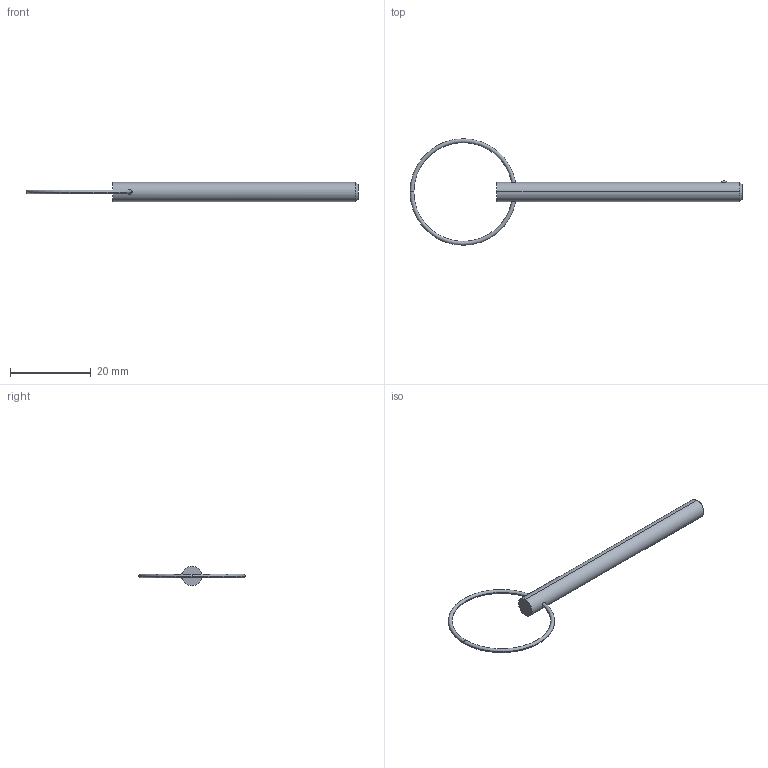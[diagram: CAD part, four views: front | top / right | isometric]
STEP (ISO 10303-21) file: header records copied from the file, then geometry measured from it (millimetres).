
FILE_DESCRIPTION (( 'STEP AP203' ), '1' );
FILE_NAME ('33012.W1820.step', '2024-11-01T14:06:04', ( '' ), ( '' ), 'SwSTEP 2.0', 'SolidWorks 2019', '' );
FILE_SCHEMA (( 'CONFIG_CONTROL_DESIGN' ));
Length unit declared in the file: millimetre
Products named in the file (3): 33012.W1820; Part1_33012.W1820; Part2_33012.W1820
Assembly tree (2 placements, depth 2):
  33012.W1820
    Part1_33012.W1820
    Part2_33012.W1820
Bounding box: 82.14 x 26.35 x 4.76 mm (x, y, z)
Volume: 1128.3 mm3; surface area: 1191.2 mm2
Topology: 2 solids, 2 shells, 16 faces, 31 edges, 18 vertices
Faces by surface type: torus 8, sphere 2, cone 2, cylinder 2, plane 2
Entity records: 779 total; most frequent: CARTESIAN_POINT 136, DIRECTION 88, ORIENTED_EDGE 62, AXIS2_PLACEMENT_3D 42, EDGE_CURVE 31, PERSON_AND_ORGANIZATION 26, CIRCLE 21, COORDINATED_UNIVERSAL_TIME_OFFSET 19
